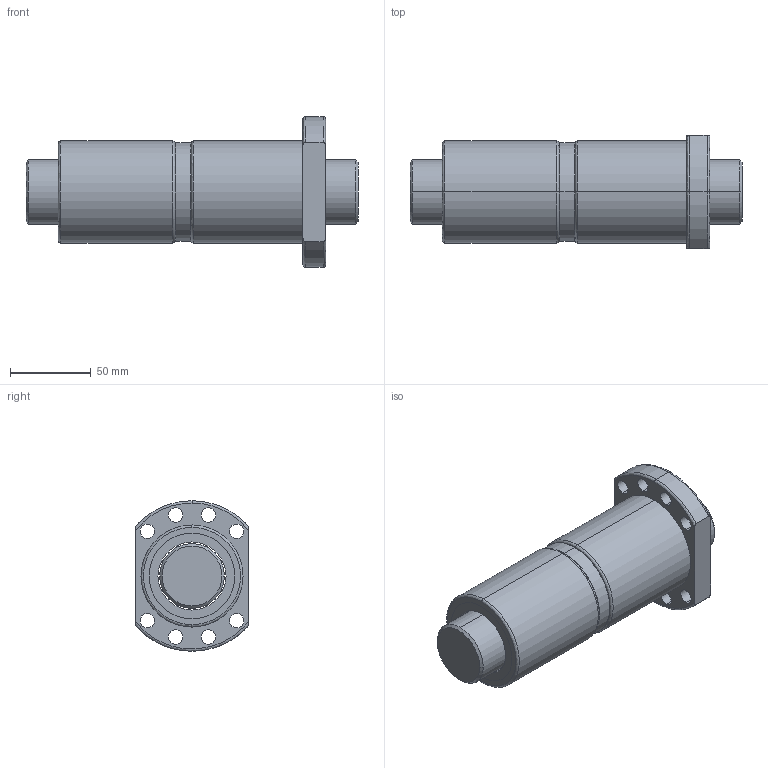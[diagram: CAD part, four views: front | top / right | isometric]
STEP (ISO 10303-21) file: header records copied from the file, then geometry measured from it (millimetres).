
FILE_DESCRIPTION (( 'STEP AP203' ), '1' );
FILE_NAME ('DFU04010.STEP', '2013-01-21T15:28:00', ( 'Halezer' ), ( '' ), 'SwSTEP 2.0', 'SolidWorks 2010', '' );
FILE_SCHEMA (( 'CONFIG_CONTROL_DESIGN' ));
Length unit declared in the file: millimetre
Products named in the file (1): DFU04010
Bounding box: 205 x 70 x 93 mm (x, y, z)
Volume: 571527.1 mm3; surface area: 107752.9 mm2
Topology: 6 solids, 6 shells, 82 faces, 187 edges, 120 vertices
Faces by surface type: cylinder 45, plane 17, bspline 16, cone 4
Entity records: 2844 total; most frequent: CARTESIAN_POINT 893, DIRECTION 405, ORIENTED_EDGE 374, EDGE_CURVE 187, AXIS2_PLACEMENT_3D 175, VERTEX_POINT 120, EDGE_LOOP 111, CIRCLE 108
